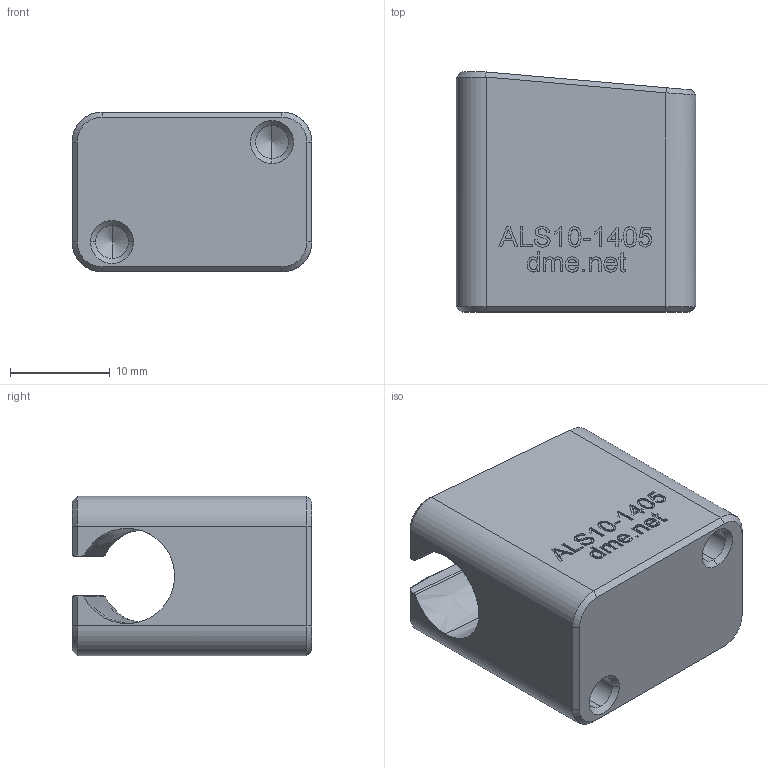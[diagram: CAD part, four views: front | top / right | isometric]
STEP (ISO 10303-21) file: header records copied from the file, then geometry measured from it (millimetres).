
FILE_DESCRIPTION (( 'STEP AP203' ), '1' );
FILE_NAME ('ALS10-1405.STEP', '2021-01-08T21:51:17', ( '' ), ( '' ), 'SwSTEP 2.0', 'SolidWorks 2020', '' );
FILE_SCHEMA (( 'CONFIG_CONTROL_DESIGN' ));
Length unit declared in the file: millimetre
Products named in the file (1): ALS10-1405
Bounding box: 24 x 24 x 16 mm (x, y, z)
Volume: 6743.8 mm3; surface area: 3064.3 mm2
Topology: 1 solids, 1 shells, 272 faces, 714 edges, 466 vertices
Faces by surface type: plane 145, bspline 99, cone 14, cylinder 14
Entity records: 13629 total; most frequent: CARTESIAN_POINT 7570, ORIENTED_EDGE 1420, DIRECTION 872, EDGE_CURVE 710, VECTOR 472, LINE 472, VERTEX_POINT 466, EDGE_LOOP 298
